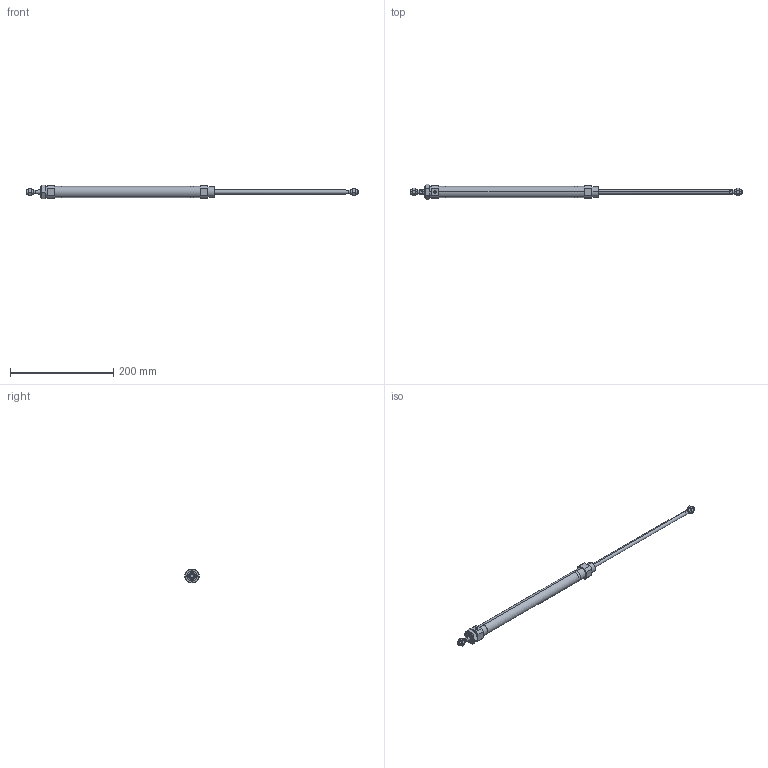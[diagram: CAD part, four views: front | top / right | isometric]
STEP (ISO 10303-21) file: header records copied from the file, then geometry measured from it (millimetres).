
FILE_DESCRIPTION (( 'STEP AP203' ), '1' );
FILE_NAME ('CSM2B20-250-P.STEP', '2020-07-20T16:41:27', ( '' ), ( '' ), 'SwSTEP 2.0', 'SolidWorks 2019', '' );
FILE_SCHEMA (( 'CONFIG_CONTROL_DESIGN' ));
Length unit declared in the file: millimetre
Products named in the file (1): CSM2B20-250-P
Bounding box: 644 x 30.02 x 26 mm (x, y, z)
Volume: 79341 mm3; surface area: 63259.9 mm2
Topology: 5 solids, 5 shells, 154 faces, 364 edges, 229 vertices
Faces by surface type: plane 62, cone 46, cylinder 46
Entity records: 5475 total; most frequent: CARTESIAN_POINT 1856, DIRECTION 748, ORIENTED_EDGE 724, EDGE_CURVE 362, AXIS2_PLACEMENT_3D 297, VERTEX_POINT 229, EDGE_LOOP 177, ADVANCED_FACE 154
